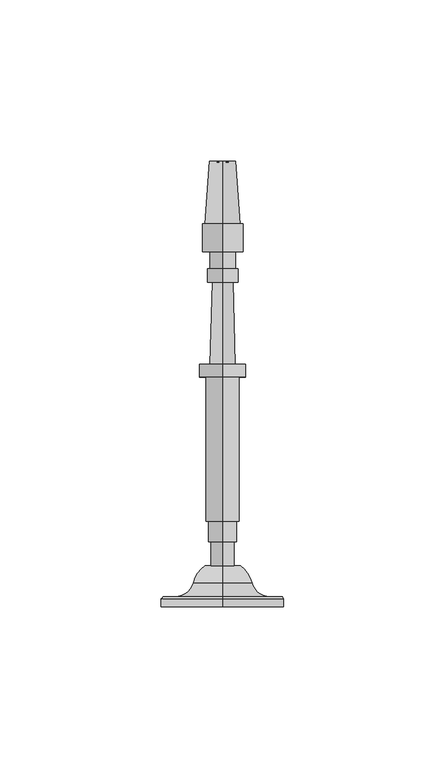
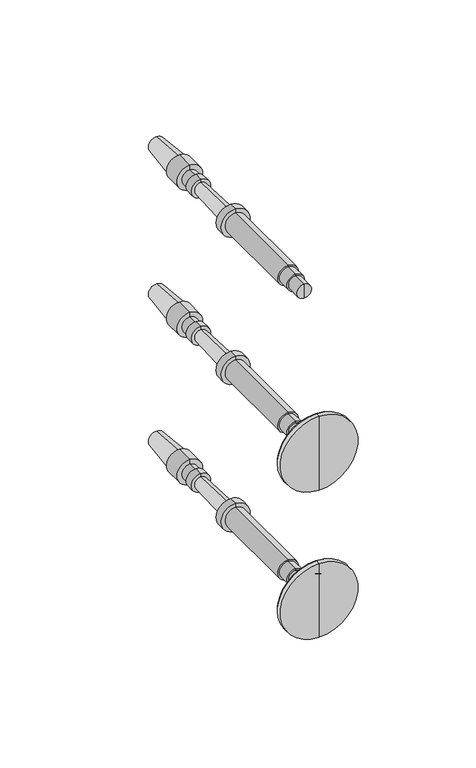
"""IFC4 building model written with IfcOpenShell, lengths in millimetres: railing geometry, RAILEASY CABLE RAILING CORNER TENSIONERS STAIR."""

from ifc_helpers import new_model, si_unit, point, frame, origin, place, context, project, spatial, polyline, circle_curve, ellipse_curve, trimmed, source, transform, mapped, element, save
from ifc_brep_helpers import plane_surface, cylinder_surface, revolved_surface, advanced_brep


def railing_9079da3a(model_context):
    return source(origin(), model_context, "Body", "AdvancedBrep", [
        advanced_brep(
        [(4097.4568095, 16768.2587003, 33140.0282881), (4097.4568095, 16768.2587003, 33143.6001631), (4097.4568095, 16768.2587003, 33147.1720381), (4097.4568095, 16893.2025896, 33143.6001631), (4097.4568095, 16893.4982539, 33139.5757028), (4097.4568095, 16893.4982539, 33147.6246235), (4097.4568095, 16874.1548899, 33138.1546072), (4097.4568095, 16874.1548899, 33149.045719), (4097.4568095, 16874.1548899, 33137.2616385), (4097.4568095, 16874.1548899, 33149.9386877), (4097.4568095, 16865.5228587, 33137.2616385), (4097.4568095, 16865.5228587, 33149.9386877), (4097.4568095, 16865.5228587, 33139.6428885), (4097.4568095, 16865.5228587, 33147.5574377), (4097.4568095, 16860.1650462, 33139.6428885), (4097.4568095, 16860.1650462, 33147.5574377), (4097.4568095, 16860.1650462, 33138.8491385), (4097.4568095, 16860.1650462, 33148.3511877), (4097.4568095, 16856.0970774, 33138.8491385), (4097.4568095, 16856.0970774, 33148.3511877), (4097.4568095, 16856.0529903, 33140.4360262), (4097.4568095, 16856.0529903, 33146.7643), (4097.4568095, 16830.6627871, 33139.7306319), (4097.4568095, 16830.6627871, 33147.4696944), (4097.4568095, 16830.6627871, 33136.4564131), (4097.4568095, 16830.6627871, 33150.7439131), (4097.4568095, 16826.6940371, 33136.4564131), (4097.4568095, 16826.6940371, 33150.7439131), (4097.4568095, 16826.6940371, 33138.4407881), (4097.4568095, 16826.6940371, 33148.7595381), (4097.4568095, 16781.9463808, 33138.4407881), (4097.4568095, 16781.9463808, 33148.7595381), (4097.4568095, 16781.9463808, 33139.2345381), (4097.4568095, 16781.9463808, 33147.9657881), (4097.4568095, 16775.5963808, 33139.2345381), (4097.4568095, 16775.5963808, 33147.9657881), (4097.4568095, 16775.5963808, 33140.0282881), (4097.4568095, 16775.5963808, 33147.1720381)],
        [
            (0, 1),
            (1, 2),
            (2, 0, circle_curve(frame((4097.4568095, 16768.2587003, 33143.6001631), z_axis=(0.0, -1.0, 0.0), x_axis=(0.0, 0.0, 1.0000000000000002)), 3.571875)),
            (0, 2, circle_curve(frame((4097.4568095, 16768.2587003, 33143.6001631), z_axis=(0.0, -1.0, 0.0), x_axis=(0.0, 0.0, 1.0000000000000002)), 3.571875)),
            (3, 4),
            (4, 5, circle_curve(frame((4097.4568095, 16893.4982539, 33143.6001631), z_axis=(0.0, 1.0, 0.0), x_axis=(0.0, 0.0, 1.0000000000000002)), 4.0244604)),
            (5, 3),
            (5, 4, circle_curve(frame((4097.4568095, 16893.4982539, 33143.6001631), z_axis=(0.0, 1.0, 0.0), x_axis=(0.0, 0.0, 1.0000000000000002)), 4.0244604)),
            (4, 6),
            (6, 7, circle_curve(frame((4097.4568095, 16874.1548899, 33143.6001631), z_axis=(0.0, 1.0, 0.0), x_axis=(0.0, 0.0, 1.0000000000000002)), 5.4455559)),
            (7, 5),
            (7, 6, circle_curve(frame((4097.4568095, 16874.1548899, 33143.6001631), z_axis=(0.0, 1.0, 0.0), x_axis=(0.0, 0.0, 1.0000000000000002)), 5.4455559)),
            (6, 8),
            (8, 9, circle_curve(frame((4097.4568095, 16874.1548899, 33143.6001631), z_axis=(0.0, 1.0, 0.0), x_axis=(0.0, 0.0, 1.0000000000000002)), 6.3385246)),
            (9, 7),
            (9, 8, circle_curve(frame((4097.4568095, 16874.1548899, 33143.6001631), z_axis=(0.0, 1.0, 0.0), x_axis=(0.0, 0.0, 1.0000000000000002)), 6.3385246)),
            (8, 10),
            (10, 11, circle_curve(frame((4097.4568095, 16865.5228587, 33143.6001631), z_axis=(0.0, 1.0, 0.0), x_axis=(0.0, 0.0, 1.0000000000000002)), 6.3385246)),
            (11, 9),
            (11, 10, circle_curve(frame((4097.4568095, 16865.5228587, 33143.6001631), z_axis=(0.0, 1.0, 0.0), x_axis=(0.0, 0.0, 1.0000000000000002)), 6.3385246)),
            (10, 12),
            (12, 13, circle_curve(frame((4097.4568095, 16865.5228587, 33143.6001631), z_axis=(0.0, 1.0, 0.0), x_axis=(0.0, 0.0, 1.0000000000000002)), 3.9572746)),
            (13, 11),
            (13, 12, circle_curve(frame((4097.4568095, 16865.5228587, 33143.6001631), z_axis=(0.0, 1.0, 0.0), x_axis=(0.0, 0.0, 1.0000000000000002)), 3.9572746)),
            (12, 14),
            (14, 15, circle_curve(frame((4097.4568095, 16860.1650462, 33143.6001631), z_axis=(0.0, 1.0, 0.0), x_axis=(0.0, 0.0, 1.0000000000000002)), 3.9572746)),
            (15, 13),
            (15, 14, circle_curve(frame((4097.4568095, 16860.1650462, 33143.6001631), z_axis=(0.0, 1.0, 0.0), x_axis=(0.0, 0.0, 1.0000000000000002)), 3.9572746)),
            (14, 16),
            (16, 17, circle_curve(frame((4097.4568095, 16860.1650462, 33143.6001631), z_axis=(0.0, 1.0, 0.0), x_axis=(0.0, 0.0, 1.0000000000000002)), 4.7510246)),
            (17, 15),
            (17, 16, circle_curve(frame((4097.4568095, 16860.1650462, 33143.6001631), z_axis=(0.0, 1.0, 0.0), x_axis=(0.0, 0.0, 1.0000000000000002)), 4.7510246)),
            (16, 18),
            (18, 19, circle_curve(frame((4097.4568095, 16856.0970774, 33143.6001631), z_axis=(0.0, 1.0, 0.0), x_axis=(0.0, 0.0, 1.0000000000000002)), 4.7510246)),
            (19, 17),
            (19, 18, circle_curve(frame((4097.4568095, 16856.0970774, 33143.6001631), z_axis=(0.0, 1.0, 0.0), x_axis=(0.0, 0.0, 1.0000000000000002)), 4.7510246)),
            (18, 20),
            (20, 21, circle_curve(frame((4097.4568095, 16856.0529903, 33143.6001631), z_axis=(0.0, 1.0, 0.0), x_axis=(0.0, 0.0, 1.0000000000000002)), 3.1641369)),
            (21, 19),
            (21, 20, circle_curve(frame((4097.4568095, 16856.0529903, 33143.6001631), z_axis=(0.0, 1.0, 0.0), x_axis=(0.0, 0.0, 1.0000000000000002)), 3.1641369)),
            (20, 22),
            (22, 23, circle_curve(frame((4097.4568095, 16830.6627871, 33143.6001631), z_axis=(0.0, 1.0, 0.0), x_axis=(0.0, 0.0, 1.0000000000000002)), 3.8695313)),
            (23, 21),
            (23, 22, circle_curve(frame((4097.4568095, 16830.6627871, 33143.6001631), z_axis=(0.0, 1.0, 0.0), x_axis=(0.0, 0.0, 1.0000000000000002)), 3.8695313)),
            (22, 24),
            (24, 25, circle_curve(frame((4097.4568095, 16830.6627871, 33143.6001631), z_axis=(0.0, 1.0, 0.0), x_axis=(0.0, 0.0, 1.0000000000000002)), 7.14375)),
            (25, 23),
            (25, 24, circle_curve(frame((4097.4568095, 16830.6627871, 33143.6001631), z_axis=(0.0, 1.0, 0.0), x_axis=(0.0, 0.0, 1.0000000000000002)), 7.14375)),
            (24, 26),
            (26, 27, circle_curve(frame((4097.4568095, 16826.6940371, 33143.6001631), z_axis=(0.0, 1.0, 0.0), x_axis=(0.0, 0.0, 1.0000000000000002)), 7.14375)),
            (27, 25),
            (27, 26, circle_curve(frame((4097.4568095, 16826.6940371, 33143.6001631), z_axis=(0.0, 1.0, 0.0), x_axis=(0.0, 0.0, 1.0000000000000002)), 7.14375)),
            (26, 28),
            (28, 29, circle_curve(frame((4097.4568095, 16826.6940371, 33143.6001631), z_axis=(0.0, 1.0, 0.0), x_axis=(0.0, 0.0, 1.0000000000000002)), 5.159375)),
            (29, 27),
            (29, 28, circle_curve(frame((4097.4568095, 16826.6940371, 33143.6001631), z_axis=(0.0, 1.0, 0.0), x_axis=(0.0, 0.0, 1.0000000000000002)), 5.159375)),
            (28, 30),
            (30, 31, circle_curve(frame((4097.4568095, 16781.9463808, 33143.6001631), z_axis=(0.0, 1.0, 0.0), x_axis=(0.0, 0.0, 1.0000000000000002)), 5.159375)),
            (31, 29),
            (31, 30, circle_curve(frame((4097.4568095, 16781.9463808, 33143.6001631), z_axis=(0.0, 1.0, 0.0), x_axis=(0.0, 0.0, 1.0000000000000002)), 5.159375)),
            (30, 32),
            (32, 33, circle_curve(frame((4097.4568095, 16781.9463808, 33143.6001631), z_axis=(0.0, 1.0, 0.0), x_axis=(0.0, 0.0, 1.0000000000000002)), 4.365625)),
            (33, 31),
            (33, 32, circle_curve(frame((4097.4568095, 16781.9463808, 33143.6001631), z_axis=(0.0, 1.0, 0.0), x_axis=(0.0, 0.0, 1.0000000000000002)), 4.365625)),
            (32, 34),
            (34, 35, circle_curve(frame((4097.4568095, 16775.5963808, 33143.6001631), z_axis=(0.0, 1.0, 0.0), x_axis=(0.0, 0.0, 1.0000000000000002)), 4.365625)),
            (35, 33),
            (35, 34, circle_curve(frame((4097.4568095, 16775.5963808, 33143.6001631), z_axis=(0.0, 1.0, 0.0), x_axis=(0.0, 0.0, 1.0000000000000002)), 4.365625)),
            (34, 36),
            (36, 37, circle_curve(frame((4097.4568095, 16775.5963808, 33143.6001631), z_axis=(0.0, 1.0, 0.0), x_axis=(0.0, 0.0, 1.0000000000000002)), 3.571875)),
            (37, 35),
            (37, 36, circle_curve(frame((4097.4568095, 16775.5963808, 33143.6001631), z_axis=(0.0, 1.0, 0.0), x_axis=(0.0, 0.0, 1.0000000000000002)), 3.571875)),
            (36, 0),
            (2, 37),
        ],
        [
            plane_surface(frame((4097.4568095, 16768.2587003, 33143.6001631), z_axis=(0.0, -1.0, 0.0), x_axis=(0.0, 0.0, 1.0))),
            revolved_surface(polyline([(4097.4568095, 16893.4982539, 33147.6246235), (4097.4568095, 16893.2025896, 33143.6001631)]), (4097.4568095, 16893.2025896, 33143.6001631), (0.0, 1.0, 0.0)),
            revolved_surface(polyline([(4097.4568095, 16874.1548899, 33149.045719), (4097.4568095, 16893.4982539, 33147.6246235)]), (4097.4568095, 16893.2025896, 33143.6001631), (0.0, 1.0, 0.0)),
            plane_surface(frame((4097.4568095, 16874.1548899, 33143.6001631), z_axis=(0.0, 1.0, 0.0), x_axis=(0.0, 0.0, 1.0))),
            cylinder_surface(frame((4097.4568095, 16893.2025896, 33143.6001631), z_axis=(0.0, 1.0, 0.0), x_axis=(0.0, 0.0, 1.0000000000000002)), 6.3385246),
            plane_surface(frame((4097.4568095, 16865.5228587, 33143.6001631), z_axis=(0.0, -1.0, 0.0), x_axis=(0.0, 0.0, 1.0))),
            cylinder_surface(frame((4097.4568095, 16893.2025896, 33143.6001631), z_axis=(0.0, 1.0, 0.0), x_axis=(0.0, 0.0, 1.0000000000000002)), 3.9572746),
            plane_surface(frame((4097.4568095, 16860.1650462, 33143.6001631), z_axis=(0.0, 1.0, 0.0), x_axis=(0.0, 0.0, 1.0))),
            cylinder_surface(frame((4097.4568095, 16893.2025896, 33143.6001631), z_axis=(0.0, 1.0, 0.0), x_axis=(0.0, 0.0, 1.0000000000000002)), 4.7510246),
            plane_surface(frame((4097.4568095, 16856.0529903, 33143.6001631), z_axis=(0.0, -1.0, 0.0), x_axis=(0.0, 0.0, 1.0))),
            revolved_surface(polyline([(4097.4568095, 16830.6627871, 33147.4696944), (4097.4568095, 16856.0529903, 33146.7643)]), (4097.4568095, 16893.2025896, 33143.6001631), (0.0, 1.0, 0.0)),
            plane_surface(frame((4097.4568095, 16830.6627871, 33143.6001631), z_axis=(0.0, 1.0, 0.0), x_axis=(0.0, 0.0, 1.0))),
            cylinder_surface(frame((4097.4568095, 16893.2025896, 33143.6001631), z_axis=(0.0, 1.0, 0.0), x_axis=(0.0, 0.0, 1.0000000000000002)), 7.14375),
            plane_surface(frame((4097.4568095, 16826.6940371, 33143.6001631), z_axis=(0.0, -1.0, 0.0), x_axis=(0.0, 0.0, 1.0))),
            cylinder_surface(frame((4097.4568095, 16893.2025896, 33143.6001631), z_axis=(0.0, 1.0, 0.0), x_axis=(0.0, 0.0, 1.0000000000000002)), 5.159375),
            plane_surface(frame((4097.4568095, 16781.9463808, 33143.6001631), z_axis=(0.0, -1.0, 0.0), x_axis=(0.0, 0.0, 1.0))),
            cylinder_surface(frame((4097.4568095, 16893.2025896, 33143.6001631), z_axis=(0.0, 1.0, 0.0), x_axis=(0.0, 0.0, 1.0000000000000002)), 4.365625),
            plane_surface(frame((4097.4568095, 16775.5963808, 33143.6001631), z_axis=(0.0, -1.0, 0.0), x_axis=(0.0, 0.0, 1.0))),
            cylinder_surface(frame((4097.4568095, 16893.2025896, 33143.6001631), z_axis=(0.0, 1.0, 0.0), x_axis=(0.0, 0.0, 1.0000000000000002)), 3.571875),
        ],
        [
            (0, [[1, 2, 3]]),
            (0, [[-2, -1, 4]]),
            (1, [[5, 6, 7]]),
            (1, [[-7, 8, -5]]),
            (2, [[9, 10, 11, -6]]),
            (2, [[-11, 12, -9, -8]]),
            (3, [[13, 14, 15, -10]]),
            (3, [[-15, 16, -13, -12]]),
            (4, [[17, 18, 19, -14]]),
            (4, [[-19, 20, -17, -16]]),
            (5, [[21, 22, 23, -18]]),
            (5, [[-23, 24, -21, -20]]),
            (6, [[25, 26, 27, -22]]),
            (6, [[-27, 28, -25, -24]]),
            (7, [[29, 30, 31, -26]]),
            (7, [[-31, 32, -29, -28]]),
            (8, [[33, 34, 35, -30]]),
            (8, [[-35, 36, -33, -32]]),
            (9, [[37, 38, 39, -34]]),
            (9, [[-39, 40, -37, -36]]),
            (10, [[41, 42, 43, -38]]),
            (10, [[-43, 44, -41, -40]]),
            (11, [[45, 46, 47, -42]]),
            (11, [[-47, 48, -45, -44]]),
            (12, [[49, 50, 51, -46]]),
            (12, [[-51, 52, -49, -48]]),
            (13, [[53, 54, 55, -50]]),
            (13, [[-55, 56, -53, -52]]),
            (14, [[57, 58, 59, -54]]),
            (14, [[-59, 60, -57, -56]]),
            (15, [[61, 62, 63, -58]]),
            (15, [[-63, 64, -61, -60]]),
            (16, [[65, 66, 67, -62]]),
            (16, [[-67, 68, -65, -64]]),
            (17, [[69, 70, 71, -66]]),
            (17, [[-71, 72, -69, -68]]),
            (18, [[73, -3, 74, -70]]),
            (18, [[-74, -4, -73, -72]]),
        ],
    ),
        advanced_brep(
        [(4097.4568095, 16755.5660637, 33067.4001631), (4097.4568095, 16755.5660637, 33086.4501631), (4097.4568095, 16755.5660637, 33048.3501631), (4097.4568095, 16768.2587003, 33061.8769785), (4097.4568095, 16768.2587003, 33072.9233478), (4097.4568095, 16768.2587003, 33067.4001631), (4097.4568095, 16762.9826039, 33058.2720381), (4097.4568095, 16762.9826039, 33076.5282881), (4097.4568095, 16758.6169789, 33052.6458254), (4097.4568095, 16758.6169789, 33082.1545009), (4097.4568095, 16758.6169789, 33048.7762941), (4097.4568095, 16758.6169789, 33086.0240321), (4097.4568095, 16757.9473137, 33048.3501631), (4097.4568095, 16757.9473137, 33086.4501631)],
        [
            (0, 1),
            (1, 2, circle_curve(frame((4097.4568095, 16755.5660637, 33067.4001631), z_axis=(0.0, -1.0, 0.0), x_axis=(0.0, 0.0, 1.0)), 19.05)),
            (2, 0),
            (2, 1, circle_curve(frame((4097.4568095, 16755.5660637, 33067.4001631), z_axis=(0.0, -1.0, 0.0), x_axis=(0.0, 0.0, 1.0)), 19.05)),
            (3, 4, circle_curve(frame((4097.4568095, 16768.2587003, 33067.4001631), z_axis=(0.0, 1.0, 0.0), x_axis=(0.0, 0.0, 1.0)), 5.5231846)),
            (4, 5),
            (5, 3),
            (4, 3, circle_curve(frame((4097.4568095, 16768.2587003, 33067.4001631), z_axis=(0.0, 1.0, 0.0), x_axis=(0.0, 0.0, 1.0)), 5.5231846)),
            (6, 7, circle_curve(frame((4097.4568095, 16762.9826039, 33067.4001631), z_axis=(0.0, 1.0, 0.0), x_axis=(0.0, 0.0, 1.0)), 9.128125)),
            (7, 4, circle_curve(frame((4097.4568095, 16760.6581952, 33067.4628958), z_axis=(-1.0, 0.0, 0.0), x_axis=(0.0, 1.0, 0.0)), 9.3586438)),
            (3, 6, circle_curve(frame((4097.4568095, 16760.6581952, 33067.3374304), z_axis=(-1.0, 0.0, 0.0), x_axis=(0.0, 1.0, 0.0)), 9.3586438)),
            (7, 6, circle_curve(frame((4097.4568095, 16762.9826039, 33067.4001631), z_axis=(0.0, 1.0, 0.0), x_axis=(0.0, 0.0, 1.0)), 9.128125)),
            (8, 9, circle_curve(frame((4097.4568095, 16758.6169789, 33067.4001631), z_axis=(0.0, 1.0, 0.0), x_axis=(0.0, 0.0, 1.0)), 14.7543378)),
            (9, 7, circle_curve(frame((4097.4568095, 16764.4251909, 33082.1545009), z_axis=(1.0, 0.0, 0.0), x_axis=(0.0, 1.0, 0.0)), 5.8082121)),
            (6, 8, circle_curve(frame((4097.4568095, 16764.4251909, 33052.6458254), z_axis=(1.0, 0.0, 0.0), x_axis=(0.0, 1.0, 0.0)), 5.8082121)),
            (9, 8, circle_curve(frame((4097.4568095, 16758.6169789, 33067.4001631), z_axis=(0.0, 1.0, 0.0), x_axis=(0.0, 0.0, 1.0)), 14.7543378)),
            (10, 11, circle_curve(frame((4097.4568095, 16758.6169789, 33067.4001631), z_axis=(0.0, 1.0, 0.0), x_axis=(0.0, 0.0, 1.0)), 18.623869)),
            (11, 9),
            (8, 10),
            (11, 10, circle_curve(frame((4097.4568095, 16758.6169789, 33067.4001631), z_axis=(0.0, 1.0, 0.0), x_axis=(0.0, 0.0, 1.0)), 18.623869)),
            (12, 13, circle_curve(frame((4097.4568095, 16757.9473137, 33067.4001631), z_axis=(0.0, 1.0, 0.0), x_axis=(0.0, 0.0, 1.0)), 19.05)),
            (13, 11),
            (10, 12),
            (13, 12, circle_curve(frame((4097.4568095, 16757.9473137, 33067.4001631), z_axis=(0.0, 1.0, 0.0), x_axis=(0.0, 0.0, 1.0)), 19.05)),
            (1, 13),
            (12, 2),
        ],
        [
            plane_surface(frame((4097.4568095, 16755.5660637, 33067.4001631), z_axis=(0.0, -1.0, 0.0), x_axis=(0.0, 0.0, 1.0))),
            plane_surface(frame((4097.4568095, 16768.2587003, 33067.4001631), z_axis=(0.0, 1.0, 0.0), x_axis=(0.0, 0.0, 1.0))),
            revolved_surface(trimmed(ellipse_curve(frame((4097.4568095, 16760.6581952, 33067.4628958), z_axis=(1.0, 0.0, 0.0), x_axis=(0.0, 1.0, 0.0)), 9.3586438, 9.3586438), [point((4097.4568095, 16768.2587003, 33072.9233478))], [point((4097.4568095, 16762.9826039, 33076.5282881))], True, "CARTESIAN"), (4097.4568095, 16755.5660637, 33067.4001631), (0.0, -1.0, 0.0)),
            revolved_surface(trimmed(ellipse_curve(frame((4097.4568095, 16764.4251909, 33082.1545009), z_axis=(-1.0, 0.0, 0.0), x_axis=(0.0, 1.0, 0.0)), 5.8082121, 5.8082121), [point((4097.4568095, 16762.9826039, 33076.5282881))], [point((4097.4568095, 16758.6169789, 33082.1545009))], True, "CARTESIAN"), (4097.4568095, 16755.5660637, 33067.4001631), (0.0, -1.0, 0.0)),
            plane_surface(frame((4097.4568095, 16758.6169789, 33067.4001631), z_axis=(0.0, 1.0, 0.0), x_axis=(0.0, 0.0, 1.0))),
            revolved_surface(polyline([(4097.4568095, 16758.6169789, 33086.0240321), (4097.4568095, 16757.9473137, 33086.4501631)]), (4097.4568095, 16755.5660637, 33067.4001631), (0.0, -1.0, 0.0)),
            cylinder_surface(frame((4097.4568095, 16755.5660637, 33067.4001631), z_axis=(0.0, -1.0, 0.0), x_axis=(0.0, 0.0, 1.0)), 19.05),
        ],
        [
            (0, [[1, 2, 3]]),
            (0, [[-3, 4, -1]]),
            (1, [[5, 6, 7]]),
            (1, [[8, -7, -6]]),
            (2, [[9, 10, -5, 11]]),
            (2, [[12, -11, -8, -10]]),
            (3, [[13, 14, -9, 15]]),
            (3, [[16, -15, -12, -14]]),
            (4, [[17, 18, -13, 19]]),
            (4, [[20, -19, -16, -18]]),
            (5, [[21, 22, -17, 23]]),
            (5, [[24, -23, -20, -22]]),
            (6, [[-2, 25, -21, 26]]),
            (6, [[-4, -26, -24, -25]]),
        ],
    ),
        advanced_brep(
        [(4097.4568095, 16768.2587003, 33063.8282881), (4097.4568095, 16768.2587003, 33067.4001631), (4097.4568095, 16768.2587003, 33070.9720381), (4097.4568095, 16893.2025896, 33067.4001631), (4097.4568095, 16893.4982539, 33063.3757028), (4097.4568095, 16893.4982539, 33071.4246235), (4097.4568095, 16874.1548899, 33061.9546072), (4097.4568095, 16874.1548899, 33072.845719), (4097.4568095, 16874.1548899, 33061.0616385), (4097.4568095, 16874.1548899, 33073.7386877), (4097.4568095, 16865.5228587, 33061.0616385), (4097.4568095, 16865.5228587, 33073.7386877), (4097.4568095, 16865.5228587, 33063.4428885), (4097.4568095, 16865.5228587, 33071.3574377), (4097.4568095, 16860.1650462, 33063.4428885), (4097.4568095, 16860.1650462, 33071.3574377), (4097.4568095, 16860.1650462, 33062.6491385), (4097.4568095, 16860.1650462, 33072.1511877), (4097.4568095, 16856.0970774, 33062.6491385), (4097.4568095, 16856.0970774, 33072.1511877), (4097.4568095, 16856.0529903, 33064.2360262), (4097.4568095, 16856.0529903, 33070.5643), (4097.4568095, 16830.6627871, 33063.5306319), (4097.4568095, 16830.6627871, 33071.2696944), (4097.4568095, 16830.6627871, 33060.2564131), (4097.4568095, 16830.6627871, 33074.5439131), (4097.4568095, 16826.6940371, 33060.2564131), (4097.4568095, 16826.6940371, 33074.5439131), (4097.4568095, 16826.6940371, 33062.2407881), (4097.4568095, 16826.6940371, 33072.5595381), (4097.4568095, 16781.9463808, 33062.2407881), (4097.4568095, 16781.9463808, 33072.5595381), (4097.4568095, 16781.9463808, 33063.0345381), (4097.4568095, 16781.9463808, 33071.7657881), (4097.4568095, 16775.5963808, 33063.0345381), (4097.4568095, 16775.5963808, 33071.7657881), (4097.4568095, 16775.5963808, 33063.8282881), (4097.4568095, 16775.5963808, 33070.9720381)],
        [
            (0, 1),
            (1, 2),
            (2, 0, circle_curve(frame((4097.4568095, 16768.2587003, 33067.4001631), z_axis=(0.0, -1.0, 0.0), x_axis=(0.0, 0.0, 1.0000000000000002)), 3.571875)),
            (0, 2, circle_curve(frame((4097.4568095, 16768.2587003, 33067.4001631), z_axis=(0.0, -1.0, 0.0), x_axis=(0.0, 0.0, 1.0000000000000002)), 3.571875)),
            (3, 4),
            (4, 5, circle_curve(frame((4097.4568095, 16893.4982539, 33067.4001631), z_axis=(0.0, 1.0, 0.0), x_axis=(0.0, 0.0, 1.0000000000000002)), 4.0244604)),
            (5, 3),
            (5, 4, circle_curve(frame((4097.4568095, 16893.4982539, 33067.4001631), z_axis=(0.0, 1.0, 0.0), x_axis=(0.0, 0.0, 1.0000000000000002)), 4.0244604)),
            (4, 6),
            (6, 7, circle_curve(frame((4097.4568095, 16874.1548899, 33067.4001631), z_axis=(0.0, 1.0, 0.0), x_axis=(0.0, 0.0, 1.0000000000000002)), 5.4455559)),
            (7, 5),
            (7, 6, circle_curve(frame((4097.4568095, 16874.1548899, 33067.4001631), z_axis=(0.0, 1.0, 0.0), x_axis=(0.0, 0.0, 1.0000000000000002)), 5.4455559)),
            (6, 8),
            (8, 9, circle_curve(frame((4097.4568095, 16874.1548899, 33067.4001631), z_axis=(0.0, 1.0, 0.0), x_axis=(0.0, 0.0, 1.0000000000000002)), 6.3385246)),
            (9, 7),
            (9, 8, circle_curve(frame((4097.4568095, 16874.1548899, 33067.4001631), z_axis=(0.0, 1.0, 0.0), x_axis=(0.0, 0.0, 1.0000000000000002)), 6.3385246)),
            (8, 10),
            (10, 11, circle_curve(frame((4097.4568095, 16865.5228587, 33067.4001631), z_axis=(0.0, 1.0, 0.0), x_axis=(0.0, 0.0, 1.0000000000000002)), 6.3385246)),
            (11, 9),
            (11, 10, circle_curve(frame((4097.4568095, 16865.5228587, 33067.4001631), z_axis=(0.0, 1.0, 0.0), x_axis=(0.0, 0.0, 1.0000000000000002)), 6.3385246)),
            (10, 12),
            (12, 13, circle_curve(frame((4097.4568095, 16865.5228587, 33067.4001631), z_axis=(0.0, 1.0, 0.0), x_axis=(0.0, 0.0, 1.0000000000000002)), 3.9572746)),
            (13, 11),
            (13, 12, circle_curve(frame((4097.4568095, 16865.5228587, 33067.4001631), z_axis=(0.0, 1.0, 0.0), x_axis=(0.0, 0.0, 1.0000000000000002)), 3.9572746)),
            (12, 14),
            (14, 15, circle_curve(frame((4097.4568095, 16860.1650462, 33067.4001631), z_axis=(0.0, 1.0, 0.0), x_axis=(0.0, 0.0, 1.0000000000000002)), 3.9572746)),
            (15, 13),
            (15, 14, circle_curve(frame((4097.4568095, 16860.1650462, 33067.4001631), z_axis=(0.0, 1.0, 0.0), x_axis=(0.0, 0.0, 1.0000000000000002)), 3.9572746)),
            (14, 16),
            (16, 17, circle_curve(frame((4097.4568095, 16860.1650462, 33067.4001631), z_axis=(0.0, 1.0, 0.0), x_axis=(0.0, 0.0, 1.0000000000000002)), 4.7510246)),
            (17, 15),
            (17, 16, circle_curve(frame((4097.4568095, 16860.1650462, 33067.4001631), z_axis=(0.0, 1.0, 0.0), x_axis=(0.0, 0.0, 1.0000000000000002)), 4.7510246)),
            (16, 18),
            (18, 19, circle_curve(frame((4097.4568095, 16856.0970774, 33067.4001631), z_axis=(0.0, 1.0, 0.0), x_axis=(0.0, 0.0, 1.0000000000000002)), 4.7510246)),
            (19, 17),
            (19, 18, circle_curve(frame((4097.4568095, 16856.0970774, 33067.4001631), z_axis=(0.0, 1.0, 0.0), x_axis=(0.0, 0.0, 1.0000000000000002)), 4.7510246)),
            (18, 20),
            (20, 21, circle_curve(frame((4097.4568095, 16856.0529903, 33067.4001631), z_axis=(0.0, 1.0, 0.0), x_axis=(0.0, 0.0, 1.0000000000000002)), 3.1641369)),
            (21, 19),
            (21, 20, circle_curve(frame((4097.4568095, 16856.0529903, 33067.4001631), z_axis=(0.0, 1.0, 0.0), x_axis=(0.0, 0.0, 1.0000000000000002)), 3.1641369)),
            (20, 22),
            (22, 23, circle_curve(frame((4097.4568095, 16830.6627871, 33067.4001631), z_axis=(0.0, 1.0, 0.0), x_axis=(0.0, 0.0, 1.0000000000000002)), 3.8695313)),
            (23, 21),
            (23, 22, circle_curve(frame((4097.4568095, 16830.6627871, 33067.4001631), z_axis=(0.0, 1.0, 0.0), x_axis=(0.0, 0.0, 1.0000000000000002)), 3.8695313)),
            (22, 24),
            (24, 25, circle_curve(frame((4097.4568095, 16830.6627871, 33067.4001631), z_axis=(0.0, 1.0, 0.0), x_axis=(0.0, 0.0, 1.0000000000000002)), 7.14375)),
            (25, 23),
            (25, 24, circle_curve(frame((4097.4568095, 16830.6627871, 33067.4001631), z_axis=(0.0, 1.0, 0.0), x_axis=(0.0, 0.0, 1.0000000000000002)), 7.14375)),
            (24, 26),
            (26, 27, circle_curve(frame((4097.4568095, 16826.6940371, 33067.4001631), z_axis=(0.0, 1.0, 0.0), x_axis=(0.0, 0.0, 1.0000000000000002)), 7.14375)),
            (27, 25),
            (27, 26, circle_curve(frame((4097.4568095, 16826.6940371, 33067.4001631), z_axis=(0.0, 1.0, 0.0), x_axis=(0.0, 0.0, 1.0000000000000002)), 7.14375)),
            (26, 28),
            (28, 29, circle_curve(frame((4097.4568095, 16826.6940371, 33067.4001631), z_axis=(0.0, 1.0, 0.0), x_axis=(0.0, 0.0, 1.0000000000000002)), 5.159375)),
            (29, 27),
            (29, 28, circle_curve(frame((4097.4568095, 16826.6940371, 33067.4001631), z_axis=(0.0, 1.0, 0.0), x_axis=(0.0, 0.0, 1.0000000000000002)), 5.159375)),
            (28, 30),
            (30, 31, circle_curve(frame((4097.4568095, 16781.9463808, 33067.4001631), z_axis=(0.0, 1.0, 0.0), x_axis=(0.0, 0.0, 1.0000000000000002)), 5.159375)),
            (31, 29),
            (31, 30, circle_curve(frame((4097.4568095, 16781.9463808, 33067.4001631), z_axis=(0.0, 1.0, 0.0), x_axis=(0.0, 0.0, 1.0000000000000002)), 5.159375)),
            (30, 32),
            (32, 33, circle_curve(frame((4097.4568095, 16781.9463808, 33067.4001631), z_axis=(0.0, 1.0, 0.0), x_axis=(0.0, 0.0, 1.0000000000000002)), 4.365625)),
            (33, 31),
            (33, 32, circle_curve(frame((4097.4568095, 16781.9463808, 33067.4001631), z_axis=(0.0, 1.0, 0.0), x_axis=(0.0, 0.0, 1.0000000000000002)), 4.365625)),
            (32, 34),
            (34, 35, circle_curve(frame((4097.4568095, 16775.5963808, 33067.4001631), z_axis=(0.0, 1.0, 0.0), x_axis=(0.0, 0.0, 1.0000000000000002)), 4.365625)),
            (35, 33),
            (35, 34, circle_curve(frame((4097.4568095, 16775.5963808, 33067.4001631), z_axis=(0.0, 1.0, 0.0), x_axis=(0.0, 0.0, 1.0000000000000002)), 4.365625)),
            (34, 36),
            (36, 37, circle_curve(frame((4097.4568095, 16775.5963808, 33067.4001631), z_axis=(0.0, 1.0, 0.0), x_axis=(0.0, 0.0, 1.0000000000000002)), 3.571875)),
            (37, 35),
            (37, 36, circle_curve(frame((4097.4568095, 16775.5963808, 33067.4001631), z_axis=(0.0, 1.0, 0.0), x_axis=(0.0, 0.0, 1.0000000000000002)), 3.571875)),
            (36, 0),
            (2, 37),
        ],
        [
            plane_surface(frame((4097.4568095, 16768.2587003, 33067.4001631), z_axis=(0.0, -1.0, 0.0), x_axis=(0.0, 0.0, 1.0))),
            revolved_surface(polyline([(4097.4568095, 16893.4982539, 33071.4246235), (4097.4568095, 16893.2025896, 33067.4001631)]), (4097.4568095, 16893.2025896, 33067.4001631), (0.0, 1.0, 0.0)),
            revolved_surface(polyline([(4097.4568095, 16874.1548899, 33072.845719), (4097.4568095, 16893.4982539, 33071.4246235)]), (4097.4568095, 16893.2025896, 33067.4001631), (0.0, 1.0, 0.0)),
            plane_surface(frame((4097.4568095, 16874.1548899, 33067.4001631), z_axis=(0.0, 1.0, 0.0), x_axis=(0.0, 0.0, 1.0))),
            cylinder_surface(frame((4097.4568095, 16893.2025896, 33067.4001631), z_axis=(0.0, 1.0, 0.0), x_axis=(0.0, 0.0, 1.0000000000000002)), 6.3385246),
            plane_surface(frame((4097.4568095, 16865.5228587, 33067.4001631), z_axis=(0.0, -1.0, 0.0), x_axis=(0.0, 0.0, 1.0))),
            cylinder_surface(frame((4097.4568095, 16893.2025896, 33067.4001631), z_axis=(0.0, 1.0, 0.0), x_axis=(0.0, 0.0, 1.0000000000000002)), 3.9572746),
            plane_surface(frame((4097.4568095, 16860.1650462, 33067.4001631), z_axis=(0.0, 1.0, 0.0), x_axis=(0.0, 0.0, 1.0))),
            cylinder_surface(frame((4097.4568095, 16893.2025896, 33067.4001631), z_axis=(0.0, 1.0, 0.0), x_axis=(0.0, 0.0, 1.0000000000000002)), 4.7510246),
            plane_surface(frame((4097.4568095, 16856.0529903, 33067.4001631), z_axis=(0.0, -1.0, 0.0), x_axis=(0.0, 0.0, 1.0))),
            revolved_surface(polyline([(4097.4568095, 16830.6627871, 33071.2696944), (4097.4568095, 16856.0529903, 33070.5643)]), (4097.4568095, 16893.2025896, 33067.4001631), (0.0, 1.0, 0.0)),
            plane_surface(frame((4097.4568095, 16830.6627871, 33067.4001631), z_axis=(0.0, 1.0, 0.0), x_axis=(0.0, 0.0, 1.0))),
            cylinder_surface(frame((4097.4568095, 16893.2025896, 33067.4001631), z_axis=(0.0, 1.0, 0.0), x_axis=(0.0, 0.0, 1.0000000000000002)), 7.14375),
            plane_surface(frame((4097.4568095, 16826.6940371, 33067.4001631), z_axis=(0.0, -1.0, 0.0), x_axis=(0.0, 0.0, 1.0))),
            cylinder_surface(frame((4097.4568095, 16893.2025896, 33067.4001631), z_axis=(0.0, 1.0, 0.0), x_axis=(0.0, 0.0, 1.0000000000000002)), 5.159375),
            plane_surface(frame((4097.4568095, 16781.9463808, 33067.4001631), z_axis=(0.0, -1.0, 0.0), x_axis=(0.0, 0.0, 1.0))),
            cylinder_surface(frame((4097.4568095, 16893.2025896, 33067.4001631), z_axis=(0.0, 1.0, 0.0), x_axis=(0.0, 0.0, 1.0000000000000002)), 4.365625),
            plane_surface(frame((4097.4568095, 16775.5963808, 33067.4001631), z_axis=(0.0, -1.0, 0.0), x_axis=(0.0, 0.0, 1.0))),
            cylinder_surface(frame((4097.4568095, 16893.2025896, 33067.4001631), z_axis=(0.0, 1.0, 0.0), x_axis=(0.0, 0.0, 1.0000000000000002)), 3.571875),
        ],
        [
            (0, [[1, 2, 3]]),
            (0, [[-2, -1, 4]]),
            (1, [[5, 6, 7]]),
            (1, [[-7, 8, -5]]),
            (2, [[9, 10, 11, -6]]),
            (2, [[-11, 12, -9, -8]]),
            (3, [[13, 14, 15, -10]]),
            (3, [[-15, 16, -13, -12]]),
            (4, [[17, 18, 19, -14]]),
            (4, [[-19, 20, -17, -16]]),
            (5, [[21, 22, 23, -18]]),
            (5, [[-23, 24, -21, -20]]),
            (6, [[25, 26, 27, -22]]),
            (6, [[-27, 28, -25, -24]]),
            (7, [[29, 30, 31, -26]]),
            (7, [[-31, 32, -29, -28]]),
            (8, [[33, 34, 35, -30]]),
            (8, [[-35, 36, -33, -32]]),
            (9, [[37, 38, 39, -34]]),
            (9, [[-39, 40, -37, -36]]),
            (10, [[41, 42, 43, -38]]),
            (10, [[-43, 44, -41, -40]]),
            (11, [[45, 46, 47, -42]]),
            (11, [[-47, 48, -45, -44]]),
            (12, [[49, 50, 51, -46]]),
            (12, [[-51, 52, -49, -48]]),
            (13, [[53, 54, 55, -50]]),
            (13, [[-55, 56, -53, -52]]),
            (14, [[57, 58, 59, -54]]),
            (14, [[-59, 60, -57, -56]]),
            (15, [[61, 62, 63, -58]]),
            (15, [[-63, 64, -61, -60]]),
            (16, [[65, 66, 67, -62]]),
            (16, [[-67, 68, -65, -64]]),
            (17, [[69, 70, 71, -66]]),
            (17, [[-71, 72, -69, -68]]),
            (18, [[73, -3, 74, -70]]),
            (18, [[-74, -4, -73, -72]]),
        ],
    ),
        advanced_brep(
        [(4097.4568095, 16755.5660637, 32991.2001631), (4097.4568095, 16755.5660637, 33010.2501631), (4097.4568095, 16755.5660637, 32972.1501631), (4097.4568095, 16768.2587003, 32985.6769785), (4097.4568095, 16768.2587003, 32996.7233478), (4097.4568095, 16768.2587003, 32991.2001631), (4097.4568095, 16762.9826039, 32982.0720381), (4097.4568095, 16762.9826039, 33000.3282881), (4097.4568095, 16758.6169789, 32976.4458254), (4097.4568095, 16758.6169789, 33005.9545009), (4097.4568095, 16758.6169789, 32972.5762941), (4097.4568095, 16758.6169789, 33009.8240321), (4097.4568095, 16757.9473137, 32972.1501631), (4097.4568095, 16757.9473137, 33010.2501631)],
        [
            (0, 1),
            (1, 2, circle_curve(frame((4097.4568095, 16755.5660637, 32991.2001631), z_axis=(0.0, -1.0, 0.0), x_axis=(0.0, 0.0, 1.0)), 19.05)),
            (2, 0),
            (2, 1, circle_curve(frame((4097.4568095, 16755.5660637, 32991.2001631), z_axis=(0.0, -1.0, 0.0), x_axis=(0.0, 0.0, 1.0)), 19.05)),
            (3, 4, circle_curve(frame((4097.4568095, 16768.2587003, 32991.2001631), z_axis=(0.0, 1.0, 0.0), x_axis=(0.0, 0.0, 1.0)), 5.5231846)),
            (4, 5),
            (5, 3),
            (4, 3, circle_curve(frame((4097.4568095, 16768.2587003, 32991.2001631), z_axis=(0.0, 1.0, 0.0), x_axis=(0.0, 0.0, 1.0)), 5.5231846)),
            (6, 7, circle_curve(frame((4097.4568095, 16762.9826039, 32991.2001631), z_axis=(0.0, 1.0, 0.0), x_axis=(0.0, 0.0, 1.0)), 9.128125)),
            (7, 4, circle_curve(frame((4097.4568095, 16760.6581952, 32991.2628958), z_axis=(-1.0, 0.0, 0.0), x_axis=(0.0, 1.0, 0.0)), 9.3586438)),
            (3, 6, circle_curve(frame((4097.4568095, 16760.6581952, 32991.1374304), z_axis=(-1.0, 0.0, 0.0), x_axis=(0.0, 1.0, 0.0)), 9.3586438)),
            (7, 6, circle_curve(frame((4097.4568095, 16762.9826039, 32991.2001631), z_axis=(0.0, 1.0, 0.0), x_axis=(0.0, 0.0, 1.0)), 9.128125)),
            (8, 9, circle_curve(frame((4097.4568095, 16758.6169789, 32991.2001631), z_axis=(0.0, 1.0, 0.0), x_axis=(0.0, 0.0, 1.0)), 14.7543378)),
            (9, 7, circle_curve(frame((4097.4568095, 16764.4251909, 33005.9545009), z_axis=(1.0, 0.0, 0.0), x_axis=(0.0, 1.0, 0.0)), 5.8082121)),
            (6, 8, circle_curve(frame((4097.4568095, 16764.4251909, 32976.4458254), z_axis=(1.0, 0.0, 0.0), x_axis=(0.0, 1.0, 0.0)), 5.8082121)),
            (9, 8, circle_curve(frame((4097.4568095, 16758.6169789, 32991.2001631), z_axis=(0.0, 1.0, 0.0), x_axis=(0.0, 0.0, 1.0)), 14.7543378)),
            (10, 11, circle_curve(frame((4097.4568095, 16758.6169789, 32991.2001631), z_axis=(0.0, 1.0, 0.0), x_axis=(0.0, 0.0, 1.0)), 18.623869)),
            (11, 9),
            (8, 10),
            (11, 10, circle_curve(frame((4097.4568095, 16758.6169789, 32991.2001631), z_axis=(0.0, 1.0, 0.0), x_axis=(0.0, 0.0, 1.0)), 18.623869)),
            (12, 13, circle_curve(frame((4097.4568095, 16757.9473137, 32991.2001631), z_axis=(0.0, 1.0, 0.0), x_axis=(0.0, 0.0, 1.0)), 19.05)),
            (13, 11),
            (10, 12),
            (13, 12, circle_curve(frame((4097.4568095, 16757.9473137, 32991.2001631), z_axis=(0.0, 1.0, 0.0), x_axis=(0.0, 0.0, 1.0)), 19.05)),
            (1, 13),
            (12, 2),
        ],
        [
            plane_surface(frame((4097.4568095, 16755.5660637, 32991.2001631), z_axis=(0.0, -1.0, 0.0), x_axis=(0.0, 0.0, 1.0))),
            plane_surface(frame((4097.4568095, 16768.2587003, 32991.2001631), z_axis=(0.0, 1.0, 0.0), x_axis=(0.0, 0.0, 1.0))),
            revolved_surface(trimmed(ellipse_curve(frame((4097.4568095, 16760.6581952, 32991.2628958), z_axis=(1.0, 0.0, 0.0), x_axis=(0.0, 1.0, 0.0)), 9.3586438, 9.3586438), [point((4097.4568095, 16768.2587003, 32996.7233478))], [point((4097.4568095, 16762.9826039, 33000.3282881))], True, "CARTESIAN"), (4097.4568095, 16755.5660637, 32991.2001631), (0.0, -1.0, 0.0)),
            revolved_surface(trimmed(ellipse_curve(frame((4097.4568095, 16764.4251909, 33005.9545009), z_axis=(-1.0, 0.0, 0.0), x_axis=(0.0, 1.0, 0.0)), 5.8082121, 5.8082121), [point((4097.4568095, 16762.9826039, 33000.3282881))], [point((4097.4568095, 16758.6169789, 33005.9545009))], True, "CARTESIAN"), (4097.4568095, 16755.5660637, 32991.2001631), (0.0, -1.0, 0.0)),
            plane_surface(frame((4097.4568095, 16758.6169789, 32991.2001631), z_axis=(0.0, 1.0, 0.0), x_axis=(0.0, 0.0, 1.0))),
            revolved_surface(polyline([(4097.4568095, 16758.6169789, 33009.8240321), (4097.4568095, 16757.9473137, 33010.2501631)]), (4097.4568095, 16755.5660637, 32991.2001631), (0.0, -1.0, 0.0)),
            cylinder_surface(frame((4097.4568095, 16755.5660637, 32991.2001631), z_axis=(0.0, -1.0, 0.0), x_axis=(0.0, 0.0, 1.0)), 19.05),
        ],
        [
            (0, [[1, 2, 3]]),
            (0, [[-3, 4, -1]]),
            (1, [[5, 6, 7]]),
            (1, [[8, -7, -6]]),
            (2, [[9, 10, -5, 11]]),
            (2, [[12, -11, -8, -10]]),
            (3, [[13, 14, -9, 15]]),
            (3, [[16, -15, -12, -14]]),
            (4, [[17, 18, -13, 19]]),
            (4, [[20, -19, -16, -18]]),
            (5, [[21, 22, -17, 23]]),
            (5, [[24, -23, -20, -22]]),
            (6, [[-2, 25, -21, 26]]),
            (6, [[-4, -26, -24, -25]]),
        ],
    ),
        advanced_brep(
        [(4097.4568095, 16768.2587003, 32987.6282881), (4097.4568095, 16768.2587003, 32991.2001631), (4097.4568095, 16768.2587003, 32994.7720381), (4097.4568095, 16893.2025896, 32991.2001631), (4097.4568095, 16893.4982539, 32987.1757028), (4097.4568095, 16893.4982539, 32995.2246235), (4097.4568095, 16874.1548899, 32985.7546072), (4097.4568095, 16874.1548899, 32996.645719), (4097.4568095, 16874.1548899, 32984.8616385), (4097.4568095, 16874.1548899, 32997.5386877), (4097.4568095, 16865.5228587, 32984.8616385), (4097.4568095, 16865.5228587, 32997.5386877), (4097.4568095, 16865.5228587, 32987.2428885), (4097.4568095, 16865.5228587, 32995.1574377), (4097.4568095, 16860.1650462, 32987.2428885), (4097.4568095, 16860.1650462, 32995.1574377), (4097.4568095, 16860.1650462, 32986.4491385), (4097.4568095, 16860.1650462, 32995.9511877), (4097.4568095, 16856.0970774, 32986.4491385), (4097.4568095, 16856.0970774, 32995.9511877), (4097.4568095, 16856.0529903, 32988.0360262), (4097.4568095, 16856.0529903, 32994.3643), (4097.4568095, 16830.6627871, 32987.3306319), (4097.4568095, 16830.6627871, 32995.0696944), (4097.4568095, 16830.6627871, 32984.0564131), (4097.4568095, 16830.6627871, 32998.3439131), (4097.4568095, 16826.6940371, 32984.0564131), (4097.4568095, 16826.6940371, 32998.3439131), (4097.4568095, 16826.6940371, 32986.0407881), (4097.4568095, 16826.6940371, 32996.3595381), (4097.4568095, 16781.9463808, 32986.0407881), (4097.4568095, 16781.9463808, 32996.3595381), (4097.4568095, 16781.9463808, 32986.8345381), (4097.4568095, 16781.9463808, 32995.5657881), (4097.4568095, 16775.5963808, 32986.8345381), (4097.4568095, 16775.5963808, 32995.5657881), (4097.4568095, 16775.5963808, 32987.6282881), (4097.4568095, 16775.5963808, 32994.7720381)],
        [
            (0, 1),
            (1, 2),
            (2, 0, circle_curve(frame((4097.4568095, 16768.2587003, 32991.2001631), z_axis=(0.0, -1.0, 0.0), x_axis=(0.0, 0.0, 1.0000000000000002)), 3.571875)),
            (0, 2, circle_curve(frame((4097.4568095, 16768.2587003, 32991.2001631), z_axis=(0.0, -1.0, 0.0), x_axis=(0.0, 0.0, 1.0000000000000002)), 3.571875)),
            (3, 4),
            (4, 5, circle_curve(frame((4097.4568095, 16893.4982539, 32991.2001631), z_axis=(0.0, 1.0, 0.0), x_axis=(0.0, 0.0, 1.0000000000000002)), 4.0244604)),
            (5, 3),
            (5, 4, circle_curve(frame((4097.4568095, 16893.4982539, 32991.2001631), z_axis=(0.0, 1.0, 0.0), x_axis=(0.0, 0.0, 1.0000000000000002)), 4.0244604)),
            (4, 6),
            (6, 7, circle_curve(frame((4097.4568095, 16874.1548899, 32991.2001631), z_axis=(0.0, 1.0, 0.0), x_axis=(0.0, 0.0, 1.0000000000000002)), 5.4455559)),
            (7, 5),
            (7, 6, circle_curve(frame((4097.4568095, 16874.1548899, 32991.2001631), z_axis=(0.0, 1.0, 0.0), x_axis=(0.0, 0.0, 1.0000000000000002)), 5.4455559)),
            (6, 8),
            (8, 9, circle_curve(frame((4097.4568095, 16874.1548899, 32991.2001631), z_axis=(0.0, 1.0, 0.0), x_axis=(0.0, 0.0, 1.0000000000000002)), 6.3385246)),
            (9, 7),
            (9, 8, circle_curve(frame((4097.4568095, 16874.1548899, 32991.2001631), z_axis=(0.0, 1.0, 0.0), x_axis=(0.0, 0.0, 1.0000000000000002)), 6.3385246)),
            (8, 10),
            (10, 11, circle_curve(frame((4097.4568095, 16865.5228587, 32991.2001631), z_axis=(0.0, 1.0, 0.0), x_axis=(0.0, 0.0, 1.0000000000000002)), 6.3385246)),
            (11, 9),
            (11, 10, circle_curve(frame((4097.4568095, 16865.5228587, 32991.2001631), z_axis=(0.0, 1.0, 0.0), x_axis=(0.0, 0.0, 1.0000000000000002)), 6.3385246)),
            (10, 12),
            (12, 13, circle_curve(frame((4097.4568095, 16865.5228587, 32991.2001631), z_axis=(0.0, 1.0, 0.0), x_axis=(0.0, 0.0, 1.0000000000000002)), 3.9572746)),
            (13, 11),
            (13, 12, circle_curve(frame((4097.4568095, 16865.5228587, 32991.2001631), z_axis=(0.0, 1.0, 0.0), x_axis=(0.0, 0.0, 1.0000000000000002)), 3.9572746)),
            (12, 14),
            (14, 15, circle_curve(frame((4097.4568095, 16860.1650462, 32991.2001631), z_axis=(0.0, 1.0, 0.0), x_axis=(0.0, 0.0, 1.0000000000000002)), 3.9572746)),
            (15, 13),
            (15, 14, circle_curve(frame((4097.4568095, 16860.1650462, 32991.2001631), z_axis=(0.0, 1.0, 0.0), x_axis=(0.0, 0.0, 1.0000000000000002)), 3.9572746)),
            (14, 16),
            (16, 17, circle_curve(frame((4097.4568095, 16860.1650462, 32991.2001631), z_axis=(0.0, 1.0, 0.0), x_axis=(0.0, 0.0, 1.0000000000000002)), 4.7510246)),
            (17, 15),
            (17, 16, circle_curve(frame((4097.4568095, 16860.1650462, 32991.2001631), z_axis=(0.0, 1.0, 0.0), x_axis=(0.0, 0.0, 1.0000000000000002)), 4.7510246)),
            (16, 18),
            (18, 19, circle_curve(frame((4097.4568095, 16856.0970774, 32991.2001631), z_axis=(0.0, 1.0, 0.0), x_axis=(0.0, 0.0, 1.0000000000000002)), 4.7510246)),
            (19, 17),
            (19, 18, circle_curve(frame((4097.4568095, 16856.0970774, 32991.2001631), z_axis=(0.0, 1.0, 0.0), x_axis=(0.0, 0.0, 1.0000000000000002)), 4.7510246)),
            (18, 20),
            (20, 21, circle_curve(frame((4097.4568095, 16856.0529903, 32991.2001631), z_axis=(0.0, 1.0, 0.0), x_axis=(0.0, 0.0, 1.0000000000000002)), 3.1641369)),
            (21, 19),
            (21, 20, circle_curve(frame((4097.4568095, 16856.0529903, 32991.2001631), z_axis=(0.0, 1.0, 0.0), x_axis=(0.0, 0.0, 1.0000000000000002)), 3.1641369)),
            (20, 22),
            (22, 23, circle_curve(frame((4097.4568095, 16830.6627871, 32991.2001631), z_axis=(0.0, 1.0, 0.0), x_axis=(0.0, 0.0, 1.0000000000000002)), 3.8695313)),
            (23, 21),
            (23, 22, circle_curve(frame((4097.4568095, 16830.6627871, 32991.2001631), z_axis=(0.0, 1.0, 0.0), x_axis=(0.0, 0.0, 1.0000000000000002)), 3.8695313)),
            (22, 24),
            (24, 25, circle_curve(frame((4097.4568095, 16830.6627871, 32991.2001631), z_axis=(0.0, 1.0, 0.0), x_axis=(0.0, 0.0, 1.0000000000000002)), 7.14375)),
            (25, 23),
            (25, 24, circle_curve(frame((4097.4568095, 16830.6627871, 32991.2001631), z_axis=(0.0, 1.0, 0.0), x_axis=(0.0, 0.0, 1.0000000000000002)), 7.14375)),
            (24, 26),
            (26, 27, circle_curve(frame((4097.4568095, 16826.6940371, 32991.2001631), z_axis=(0.0, 1.0, 0.0), x_axis=(0.0, 0.0, 1.0000000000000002)), 7.14375)),
            (27, 25),
            (27, 26, circle_curve(frame((4097.4568095, 16826.6940371, 32991.2001631), z_axis=(0.0, 1.0, 0.0), x_axis=(0.0, 0.0, 1.0000000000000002)), 7.14375)),
            (26, 28),
            (28, 29, circle_curve(frame((4097.4568095, 16826.6940371, 32991.2001631), z_axis=(0.0, 1.0, 0.0), x_axis=(0.0, 0.0, 1.0000000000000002)), 5.159375)),
            (29, 27),
            (29, 28, circle_curve(frame((4097.4568095, 16826.6940371, 32991.2001631), z_axis=(0.0, 1.0, 0.0), x_axis=(0.0, 0.0, 1.0000000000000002)), 5.159375)),
            (28, 30),
            (30, 31, circle_curve(frame((4097.4568095, 16781.9463808, 32991.2001631), z_axis=(0.0, 1.0, 0.0), x_axis=(0.0, 0.0, 1.0000000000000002)), 5.159375)),
            (31, 29),
            (31, 30, circle_curve(frame((4097.4568095, 16781.9463808, 32991.2001631), z_axis=(0.0, 1.0, 0.0), x_axis=(0.0, 0.0, 1.0000000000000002)), 5.159375)),
            (30, 32),
            (32, 33, circle_curve(frame((4097.4568095, 16781.9463808, 32991.2001631), z_axis=(0.0, 1.0, 0.0), x_axis=(0.0, 0.0, 1.0000000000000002)), 4.365625)),
            (33, 31),
            (33, 32, circle_curve(frame((4097.4568095, 16781.9463808, 32991.2001631), z_axis=(0.0, 1.0, 0.0), x_axis=(0.0, 0.0, 1.0000000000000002)), 4.365625)),
            (32, 34),
            (34, 35, circle_curve(frame((4097.4568095, 16775.5963808, 32991.2001631), z_axis=(0.0, 1.0, 0.0), x_axis=(0.0, 0.0, 1.0000000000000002)), 4.365625)),
            (35, 33),
            (35, 34, circle_curve(frame((4097.4568095, 16775.5963808, 32991.2001631), z_axis=(0.0, 1.0, 0.0), x_axis=(0.0, 0.0, 1.0000000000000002)), 4.365625)),
            (34, 36),
            (36, 37, circle_curve(frame((4097.4568095, 16775.5963808, 32991.2001631), z_axis=(0.0, 1.0, 0.0), x_axis=(0.0, 0.0, 1.0000000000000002)), 3.571875)),
            (37, 35),
            (37, 36, circle_curve(frame((4097.4568095, 16775.5963808, 32991.2001631), z_axis=(0.0, 1.0, 0.0), x_axis=(0.0, 0.0, 1.0000000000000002)), 3.571875)),
            (36, 0),
            (2, 37),
        ],
        [
            plane_surface(frame((4097.4568095, 16768.2587003, 32991.2001631), z_axis=(0.0, -1.0, 0.0), x_axis=(0.0, 0.0, 1.0))),
            revolved_surface(polyline([(4097.4568095, 16893.4982539, 32995.2246235), (4097.4568095, 16893.2025896, 32991.2001631)]), (4097.4568095, 16893.2025896, 32991.2001631), (0.0, 1.0, 0.0)),
            revolved_surface(polyline([(4097.4568095, 16874.1548899, 32996.645719), (4097.4568095, 16893.4982539, 32995.2246235)]), (4097.4568095, 16893.2025896, 32991.2001631), (0.0, 1.0, 0.0)),
            plane_surface(frame((4097.4568095, 16874.1548899, 32991.2001631), z_axis=(0.0, 1.0, 0.0), x_axis=(0.0, 0.0, 1.0))),
            cylinder_surface(frame((4097.4568095, 16893.2025896, 32991.2001631), z_axis=(0.0, 1.0, 0.0), x_axis=(0.0, 0.0, 1.0000000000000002)), 6.3385246),
            plane_surface(frame((4097.4568095, 16865.5228587, 32991.2001631), z_axis=(0.0, -1.0, 0.0), x_axis=(0.0, 0.0, 1.0))),
            cylinder_surface(frame((4097.4568095, 16893.2025896, 32991.2001631), z_axis=(0.0, 1.0, 0.0), x_axis=(0.0, 0.0, 1.0000000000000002)), 3.9572746),
            plane_surface(frame((4097.4568095, 16860.1650462, 32991.2001631), z_axis=(0.0, 1.0, 0.0), x_axis=(0.0, 0.0, 1.0))),
            cylinder_surface(frame((4097.4568095, 16893.2025896, 32991.2001631), z_axis=(0.0, 1.0, 0.0), x_axis=(0.0, 0.0, 1.0000000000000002)), 4.7510246),
            plane_surface(frame((4097.4568095, 16856.0529903, 32991.2001631), z_axis=(0.0, -1.0, 0.0), x_axis=(0.0, 0.0, 1.0))),
            revolved_surface(polyline([(4097.4568095, 16830.6627871, 32995.0696944), (4097.4568095, 16856.0529903, 32994.3643)]), (4097.4568095, 16893.2025896, 32991.2001631), (0.0, 1.0, 0.0)),
            plane_surface(frame((4097.4568095, 16830.6627871, 32991.2001631), z_axis=(0.0, 1.0, 0.0), x_axis=(0.0, 0.0, 1.0))),
            cylinder_surface(frame((4097.4568095, 16893.2025896, 32991.2001631), z_axis=(0.0, 1.0, 0.0), x_axis=(0.0, 0.0, 1.0000000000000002)), 7.14375),
            plane_surface(frame((4097.4568095, 16826.6940371, 32991.2001631), z_axis=(0.0, -1.0, 0.0), x_axis=(0.0, 0.0, 1.0))),
            cylinder_surface(frame((4097.4568095, 16893.2025896, 32991.2001631), z_axis=(0.0, 1.0, 0.0), x_axis=(0.0, 0.0, 1.0000000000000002)), 5.159375),
            plane_surface(frame((4097.4568095, 16781.9463808, 32991.2001631), z_axis=(0.0, -1.0, 0.0), x_axis=(0.0, 0.0, 1.0))),
            cylinder_surface(frame((4097.4568095, 16893.2025896, 32991.2001631), z_axis=(0.0, 1.0, 0.0), x_axis=(0.0, 0.0, 1.0000000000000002)), 4.365625),
            plane_surface(frame((4097.4568095, 16775.5963808, 32991.2001631), z_axis=(0.0, -1.0, 0.0), x_axis=(0.0, 0.0, 1.0))),
            cylinder_surface(frame((4097.4568095, 16893.2025896, 32991.2001631), z_axis=(0.0, 1.0, 0.0), x_axis=(0.0, 0.0, 1.0000000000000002)), 3.571875),
        ],
        [
            (0, [[1, 2, 3]]),
            (0, [[-2, -1, 4]]),
            (1, [[5, 6, 7]]),
            (1, [[-7, 8, -5]]),
            (2, [[9, 10, 11, -6]]),
            (2, [[-11, 12, -9, -8]]),
            (3, [[13, 14, 15, -10]]),
            (3, [[-15, 16, -13, -12]]),
            (4, [[17, 18, 19, -14]]),
            (4, [[-19, 20, -17, -16]]),
            (5, [[21, 22, 23, -18]]),
            (5, [[-23, 24, -21, -20]]),
            (6, [[25, 26, 27, -22]]),
            (6, [[-27, 28, -25, -24]]),
            (7, [[29, 30, 31, -26]]),
            (7, [[-31, 32, -29, -28]]),
            (8, [[33, 34, 35, -30]]),
            (8, [[-35, 36, -33, -32]]),
            (9, [[37, 38, 39, -34]]),
            (9, [[-39, 40, -37, -36]]),
            (10, [[41, 42, 43, -38]]),
            (10, [[-43, 44, -41, -40]]),
            (11, [[45, 46, 47, -42]]),
            (11, [[-47, 48, -45, -44]]),
            (12, [[49, 50, 51, -46]]),
            (12, [[-51, 52, -49, -48]]),
            (13, [[53, 54, 55, -50]]),
            (13, [[-55, 56, -53, -52]]),
            (14, [[57, 58, 59, -54]]),
            (14, [[-59, 60, -57, -56]]),
            (15, [[61, 62, 63, -58]]),
            (15, [[-63, 64, -61, -60]]),
            (16, [[65, 66, 67, -62]]),
            (16, [[-67, 68, -65, -64]]),
            (17, [[69, 70, 71, -66]]),
            (17, [[-71, 72, -69, -68]]),
            (18, [[73, -3, 74, -70]]),
            (18, [[-74, -4, -73, -72]]),
        ],
    ),
    ])


if __name__ == "__main__":
    model = new_model("IFC4")
    model_context = context("Model", 3, world=origin())
    ifc_project = project(units=[si_unit("LENGTHUNIT", "METRE", prefix="MILLI")], contexts=[model_context])
    site = spatial("IfcSite", under=ifc_project)
    building = spatial("IfcBuilding", under=site)
    placement = place(None, origin())
    railing_shape = railing_9079da3a(model_context)
    element("IfcRailing", 1, ObjectType="RAILEASY CABLE RAILING CORNER TENSIONERS STAIR", at=placement, inside=building, context=model_context, shape_type="MappedRepresentation", body=[
        mapped(railing_shape, transform((0.0, 0.0, 0.0), x_axis=(1.0, 0.0, 0.0), y_axis=(0.0, 1.0, 0.0), z_axis=(0.0, 0.0, 1.0))),
    ])
    save(model, "model.ifc")
